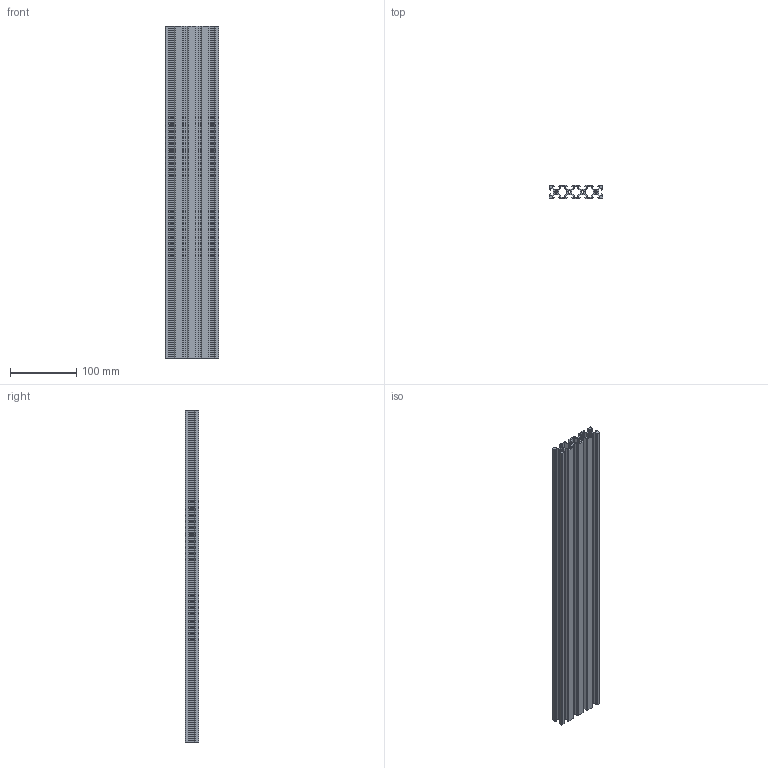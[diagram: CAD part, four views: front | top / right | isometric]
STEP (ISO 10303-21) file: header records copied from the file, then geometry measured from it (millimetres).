
FILE_DESCRIPTION (( 'STEP AP214' ), '1' );
FILE_NAME ('T-V-Slot–20x80mm.step', '2024-07-09T09:35:17', ( '' ), ( '' ), 'SwSTEP 2.0', 'SolidWorks 2024', '' );
FILE_SCHEMA (( 'AUTOMOTIVE_DESIGN' ));
Length unit declared in the file: millimetre
Products named in the file (1): T-V-Slot–20x80mm
Bounding box: 80 x 20 x 500 mm (x, y, z)
Volume: 278467 mm3; surface area: 286296.8 mm2
Topology: 1 solids, 1 shells, 250 faces, 750 edges, 502 vertices
Faces by surface type: plane 190, cylinder 60
Entity records: 8433 total; most frequent: CARTESIAN_POINT 1503, ORIENTED_EDGE 1500, DIRECTION 1372, EDGE_CURVE 750, LINE 630, VECTOR 630, VERTEX_POINT 502, AXIS2_PLACEMENT_3D 371
